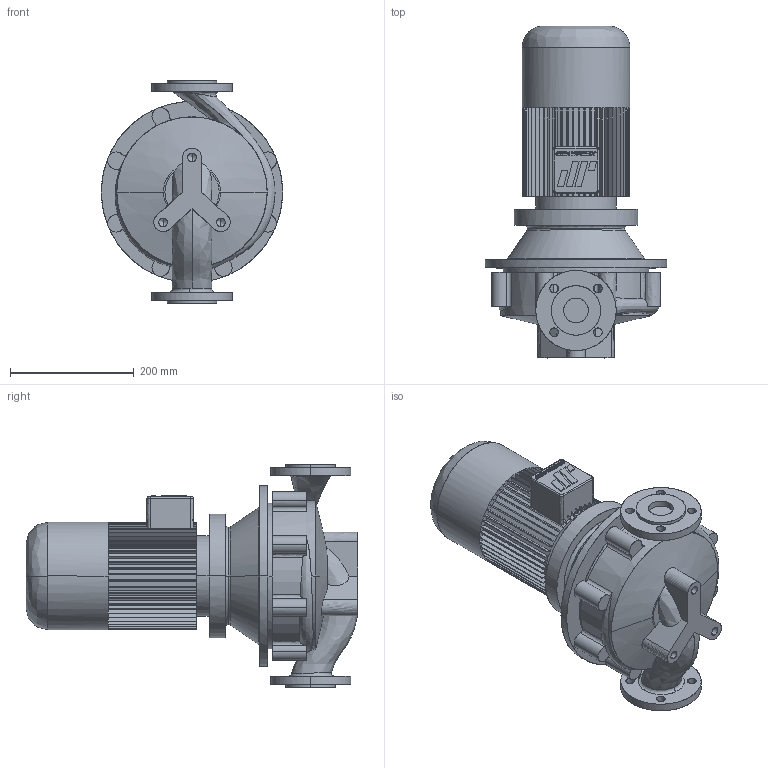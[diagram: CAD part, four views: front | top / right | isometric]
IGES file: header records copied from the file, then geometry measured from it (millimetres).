
Start section: CombiLine
Global section: file name: CLB_40-200_IEC90S.igs; native system:  By UGS Corp.; preprocessor: XPlus GENERIC/IGES 3.0; author: Stageplaats; organization: Johnson Pump Water B.V.; date: 20070712.151117; units: millimetre
Bounding box: 293 x 536.5 x 360 mm (x, y, z)
Surface area: 717758.8 mm2 (no closed solid volume)
Topology: 0 solids, 0 shells, 542 faces, 3312 edges, 3306 vertices
Faces by surface type: bspline 542
